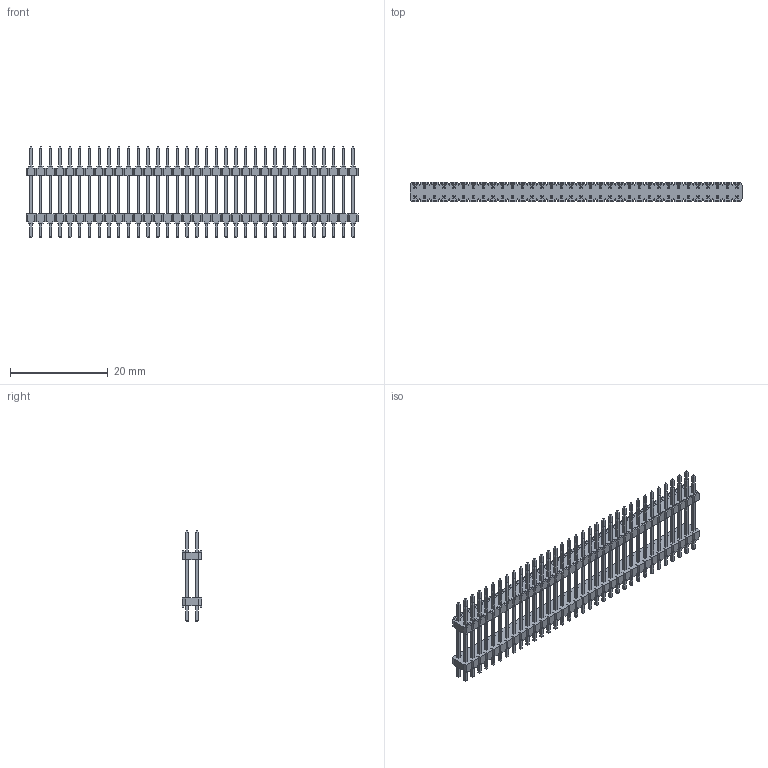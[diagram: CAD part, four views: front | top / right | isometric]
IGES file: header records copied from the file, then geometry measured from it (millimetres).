
Global section: file name: N:\GOLF_VI_2mm_UGII\9514XX_801XX06_AR\951468-8012206-AR.igs; native system: NX V3.0; preprocessor: UGS NX IGES V4.0; date: 20070314.080955; units: millimetre
Bounding box: 68 x 4 x 18.6 mm (x, y, z)
Surface area: 3852.2 mm2 (no closed solid volume)
Topology: 0 solids, 0 shells, 2456 faces, 12809 edges, 12809 vertices
Faces by surface type: bspline 2456
